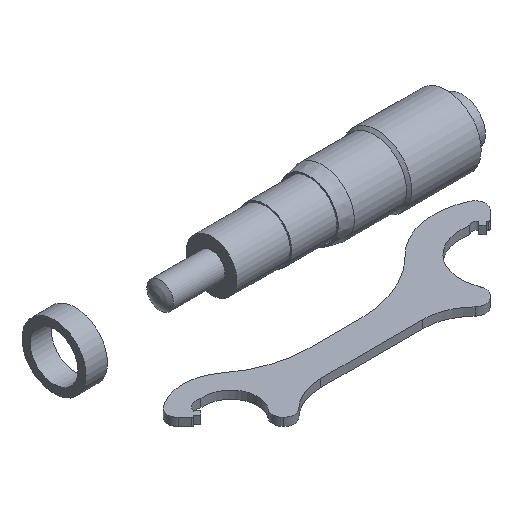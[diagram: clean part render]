
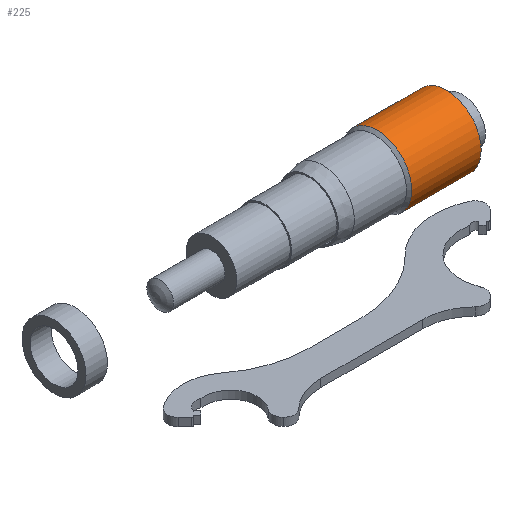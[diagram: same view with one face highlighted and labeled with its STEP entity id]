
A CAD part, isometric view. The second image highlights one B-rep face of the part: STEP entity #225.
In plain terms, the highlighted cylindrical face has radius 6.5 mm (diameter 13 mm), a full revolution.
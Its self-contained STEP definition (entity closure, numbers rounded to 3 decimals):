
#225 = ADVANCED_FACE( '', ( #292, #293 ), #294, .T. );
#292 = FACE_OUTER_BOUND( '', #424, .T. );
#293 = FACE_OUTER_BOUND( '', #425, .T. );
#294 = CYLINDRICAL_SURFACE( '', #426, 6.5 );
#424 = EDGE_LOOP( '', ( #568 ) );
#425 = EDGE_LOOP( '', ( #569 ) );
#426 = AXIS2_PLACEMENT_3D( '', #570, #571, #572 );
#568 = ORIENTED_EDGE( '', *, *, #948, .T. );
#569 = ORIENTED_EDGE( '', *, *, #947, .F. );
#570 = CARTESIAN_POINT( '', ( 43.134, 0., 0. ) );
#571 = DIRECTION( '', ( -1., 0., 0. ) );
#572 = DIRECTION( '', ( 0., 0., -1. ) );
#947 = EDGE_CURVE( '', #1069, #1069, #1070, .T. );
#948 = EDGE_CURVE( '', #1071, #1071, #1072, .T. );
#1069 = VERTEX_POINT( '', #1271 );
#1070 = CIRCLE( '', #1272, 6.5 );
#1071 = VERTEX_POINT( '', #1273 );
#1072 = CIRCLE( '', #1274, 6.5 );
#1271 = CARTESIAN_POINT( '', ( 74., 0., -6.5 ) );
#1272 = AXIS2_PLACEMENT_3D( '', #1538, #1539, #1540 );
#1273 = CARTESIAN_POINT( '', ( 61., 0., -6.5 ) );
#1274 = AXIS2_PLACEMENT_3D( '', #1541, #1542, #1543 );
#1538 = CARTESIAN_POINT( '', ( 74., 0., 0. ) );
#1539 = DIRECTION( '', ( 1., 0., 0. ) );
#1540 = DIRECTION( '', ( 0., 0., -1. ) );
#1541 = CARTESIAN_POINT( '', ( 61., 0., 0. ) );
#1542 = DIRECTION( '', ( 1., 0., 0. ) );
#1543 = DIRECTION( '', ( 0., 0., -1. ) );
